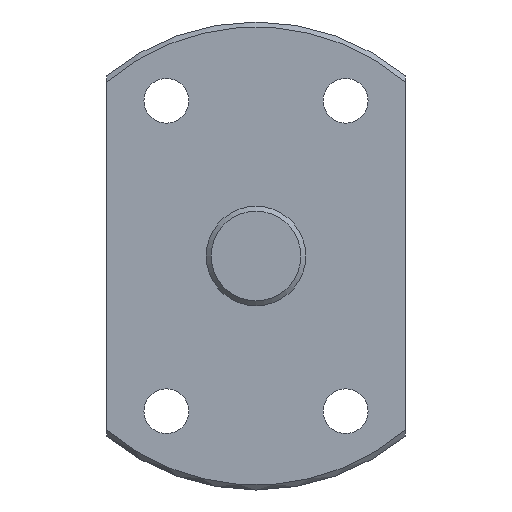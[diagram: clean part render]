
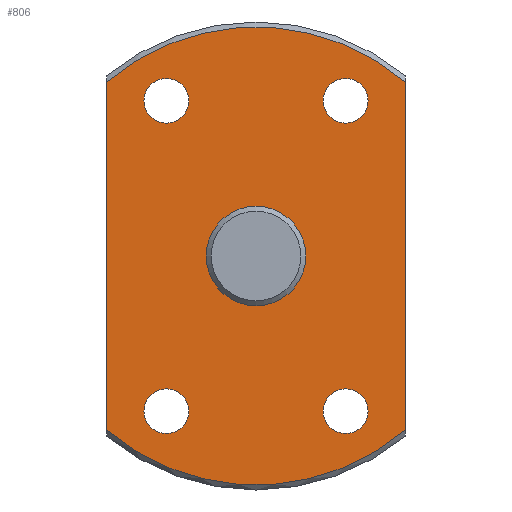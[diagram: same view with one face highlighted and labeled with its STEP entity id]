
A CAD part, left-side view. The second image highlights one B-rep face of the part: STEP entity #806.
In plain terms, the highlighted planar face has unit normal (-1, 0, 0).
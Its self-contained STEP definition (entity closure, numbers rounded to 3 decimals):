
#306=CARTESIAN_POINT('',(175.305,-15.0,17.436));
#307=VERTEX_POINT('',#306);
#332=CARTESIAN_POINT('',(175.305,15.0,17.436));
#333=VERTEX_POINT('',#332);
#347=CARTESIAN_POINT('',(175.305,0.0,0.0));
#348=DIRECTION('',(1.0,0.0,0.0));
#349=DIRECTION('',(0.0,1.0,0.0));
#350=AXIS2_PLACEMENT_3D('',#347,#348,#349);
#351=CIRCLE('',#350,23.);
#352=EDGE_CURVE('',#333,#307,#351,.T.);
#395=CARTESIAN_POINT('',(175.305,-15.0,-17.436));
#396=VERTEX_POINT('',#395);
#397=CARTESIAN_POINT('',(175.305,-15.0,17.436));
#398=DIRECTION('',(0.0,0.0,-1.0));
#399=VECTOR('',#398,34.871);
#400=LINE('',#397,#399);
#401=EDGE_CURVE('',#307,#396,#400,.T.);
#471=CARTESIAN_POINT('',(175.305,15.0,-17.436));
#472=VERTEX_POINT('',#471);
#496=CARTESIAN_POINT('',(175.305,0.0,0.0));
#497=DIRECTION('',(1.0,0.0,0.0));
#498=DIRECTION('',(0.0,1.0,0.0));
#499=AXIS2_PLACEMENT_3D('',#496,#497,#498);
#500=CIRCLE('',#499,23.);
#501=EDGE_CURVE('',#396,#472,#500,.T.);
#576=CARTESIAN_POINT('',(175.305,15.0,-17.436));
#577=DIRECTION('',(0.0,0.0,1.0));
#578=VECTOR('',#577,34.871);
#579=LINE('',#576,#578);
#580=EDGE_CURVE('',#472,#333,#579,.T.);
#688=CARTESIAN_POINT('',(175.305,5.0,0.));
#689=VERTEX_POINT('',#688);
#690=CARTESIAN_POINT('',(175.305,0.0,0.0));
#691=DIRECTION('',(1.0,0.0,0.0));
#692=DIRECTION('',(0.0,-1.0,0.0));
#693=AXIS2_PLACEMENT_3D('',#690,#691,#692);
#694=CIRCLE('',#693,5.0);
#695=EDGE_CURVE('',#689,#689,#694,.T.);
#708=CARTESIAN_POINT('',(175.305,11.25,-15.588));
#709=VERTEX_POINT('',#708);
#710=CARTESIAN_POINT('',(175.305,9.,-15.588));
#711=DIRECTION('',(1.0,0.0,0.0));
#712=DIRECTION('',(0.0,1.0,0.0));
#713=AXIS2_PLACEMENT_3D('',#710,#711,#712);
#714=CIRCLE('',#713,2.25);
#715=EDGE_CURVE('',#709,#709,#714,.T.);
#728=CARTESIAN_POINT('',(175.305,-6.75,15.588));
#729=VERTEX_POINT('',#728);
#730=CARTESIAN_POINT('',(175.305,-9.,15.588));
#731=DIRECTION('',(1.0,0.0,0.0));
#732=DIRECTION('',(0.0,1.0,0.0));
#733=AXIS2_PLACEMENT_3D('',#730,#731,#732);
#734=CIRCLE('',#733,2.25);
#735=EDGE_CURVE('',#729,#729,#734,.T.);
#748=CARTESIAN_POINT('',(175.305,11.25,15.588));
#749=VERTEX_POINT('',#748);
#750=CARTESIAN_POINT('',(175.305,9.,15.588));
#751=DIRECTION('',(1.0,0.0,0.0));
#752=DIRECTION('',(0.0,1.0,0.0));
#753=AXIS2_PLACEMENT_3D('',#750,#751,#752);
#754=CIRCLE('',#753,2.25);
#755=EDGE_CURVE('',#749,#749,#754,.T.);
#768=CARTESIAN_POINT('',(175.305,-6.75,-15.588));
#769=VERTEX_POINT('',#768);
#770=CARTESIAN_POINT('',(175.305,-9.,-15.588));
#771=DIRECTION('',(1.0,0.0,0.0));
#772=DIRECTION('',(0.0,1.0,0.0));
#773=AXIS2_PLACEMENT_3D('',#770,#771,#772);
#774=CIRCLE('',#773,2.25);
#775=EDGE_CURVE('',#769,#769,#774,.T.);
#780=CARTESIAN_POINT('',(175.305,0.0,0.0));
#781=DIRECTION('',(-1.0,0.0,0.0));
#782=DIRECTION('',(0.0,0.0,1.0));
#783=AXIS2_PLACEMENT_3D('',#780,#781,#782);
#784=PLANE('',#783);
#785=ORIENTED_EDGE('',*,*,#352,.F.);
#786=ORIENTED_EDGE('',*,*,#580,.F.);
#787=ORIENTED_EDGE('',*,*,#501,.F.);
#788=ORIENTED_EDGE('',*,*,#401,.F.);
#789=EDGE_LOOP('',(#785,#786,#787,#788));
#790=FACE_OUTER_BOUND('',#789,.T.);
#791=ORIENTED_EDGE('',*,*,#695,.T.);
#792=EDGE_LOOP('',(#791));
#793=FACE_BOUND('',#792,.T.);
#794=ORIENTED_EDGE('',*,*,#715,.T.);
#795=EDGE_LOOP('',(#794));
#796=FACE_BOUND('',#795,.T.);
#797=ORIENTED_EDGE('',*,*,#735,.T.);
#798=EDGE_LOOP('',(#797));
#799=FACE_BOUND('',#798,.T.);
#800=ORIENTED_EDGE('',*,*,#755,.T.);
#801=EDGE_LOOP('',(#800));
#802=FACE_BOUND('',#801,.T.);
#803=ORIENTED_EDGE('',*,*,#775,.T.);
#804=EDGE_LOOP('',(#803));
#805=FACE_BOUND('',#804,.T.);
#806=ADVANCED_FACE('',(#790,#793,#796,#799,#802,#805),#784,.T.);
